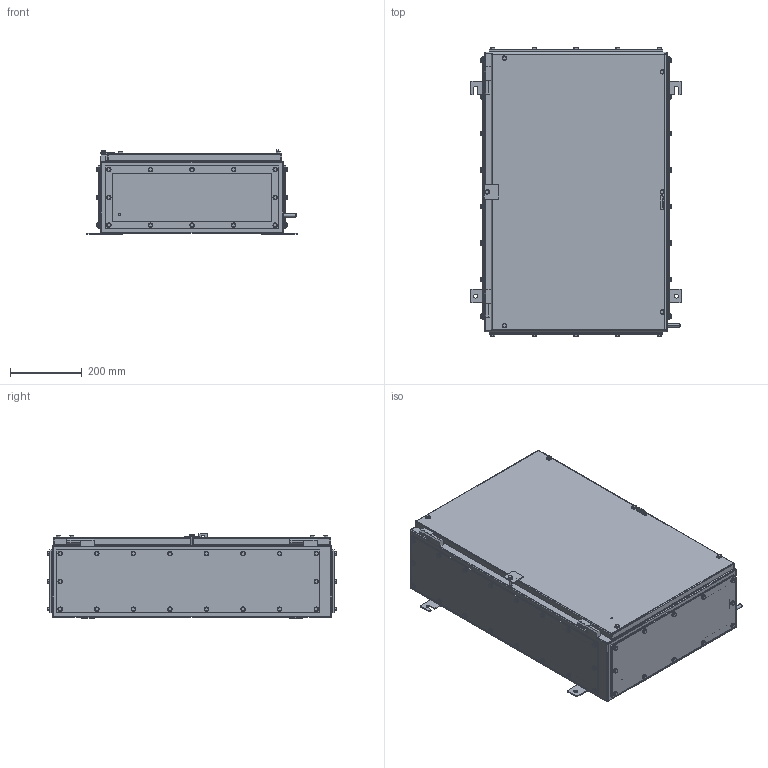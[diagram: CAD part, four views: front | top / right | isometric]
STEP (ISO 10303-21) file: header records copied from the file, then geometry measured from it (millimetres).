
FILE_DESCRIPTION (( 'STEP AP203' ), '1' );
FILE_NAME ('SX6_200_4GP.STEP', '2021-05-20T08:21:19', ( '' ), ( '' ), 'SwSTEP 2.0', 'SolidWorks 2020', '' );
FILE_SCHEMA (( 'CONFIG_CONTROL_DESIGN' ));
Length unit declared in the file: millimetre
Products named in the file (12): SX6_200_4GP Body; hex screw gradec_bsi_ISO 4018 - M6 x 12-WN; SX6-200 Base Gasket; plain washer form a_bsi_Bright washer BS 4320 - M6 (Form A); hex screw gradec_bsi_BS EN 24018 - M6 x 16-WN; hex screw gradec_bsi_BS EN 24018 - M6 x 20-WN; SX6-200 Base Gland plate; hex screw gradec_iso_ISO 4018 - M6 x 30-WN; SX6-200 side Gland plate; SX6_200_4GP; SX6 Door; SX6-200 side Gasket
Assembly tree (142 placements, depth 2):
  SX6_200_4GP
    SX6_200_4GP Body
    SX6-200 Base Gasket  x2
    SX6-200 side Gasket  x2
    SX6-200 side Gland plate  x2
    SX6-200 Base Gland plate  x2
    hex screw gradec_bsi_BS EN 24018 - M6 x 16-WN  x59
    plain washer form a_bsi_Bright washer BS 4320 - M6 (Form A)  x66
    hex screw gradec_bsi_ISO 4018 - M6 x 12-WN
    SX6 Door
    hex screw gradec_bsi_BS EN 24018 - M6 x 20-WN  x5
    hex screw gradec_iso_ISO 4018 - M6 x 30-WN
Bounding box: 590 x 803.95 x 236 mm (x, y, z)
Volume: 4084884.1 mm3; surface area: 3534130.9 mm2
Topology: 142 solids, 142 shells, 3281 faces, 7126 edges, 4312 vertices
Faces by surface type: plane 1479, cylinder 1212, cone 538, sphere 44, torus 8
Entity records: 35728 total; most frequent: DIRECTION 5972, CARTESIAN_POINT 5342, ORIENTED_EDGE 4772, AXIS2_PLACEMENT_3D 2430, EDGE_CURVE 2386, VERTEX_POINT 1512, EDGE_LOOP 1376, CIRCLE 1226
